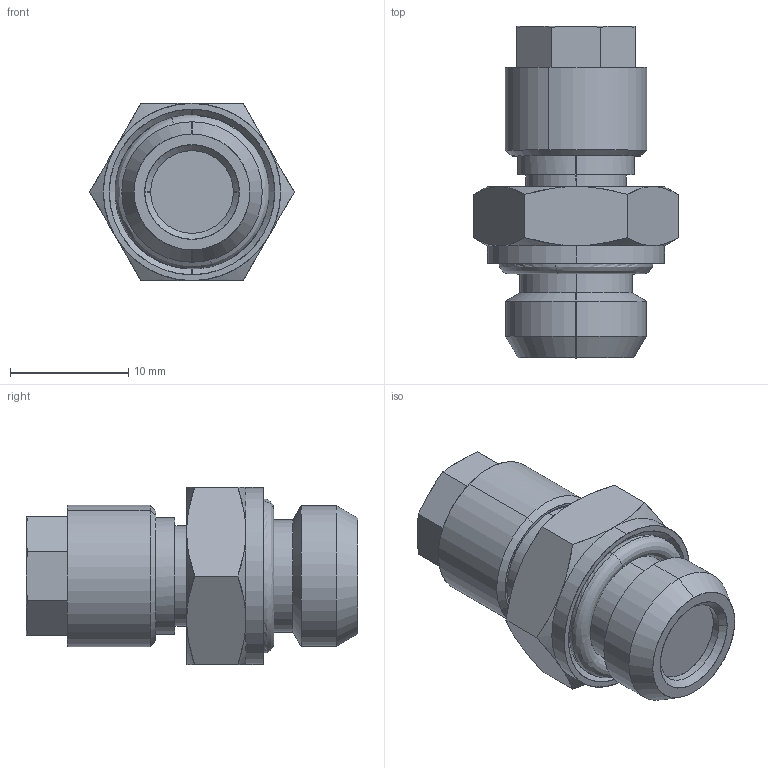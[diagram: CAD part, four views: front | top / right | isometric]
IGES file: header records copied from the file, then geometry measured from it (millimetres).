
Start section: SolidWorks IGES file using analytic representation for surfaces
Global section: file name: K:\Disegni Esecutivi\Serie 1000\Complessivi Serie 1000\1021\1021_iges\0102100008A.IGS; native system: SolidWorks 2008; preprocessor: SolidWorks 2008; author: cad05; date: 090121.173653; units: millimetre
Bounding box: 17.32 x 28.1 x 15 mm (x, y, z)
Surface area: 1867.6 mm2 (no closed solid volume)
Topology: 0 solids, 0 shells, 83 faces, 1019 edges, 1019 vertices
Faces by surface type: revolution 49, bspline 34
